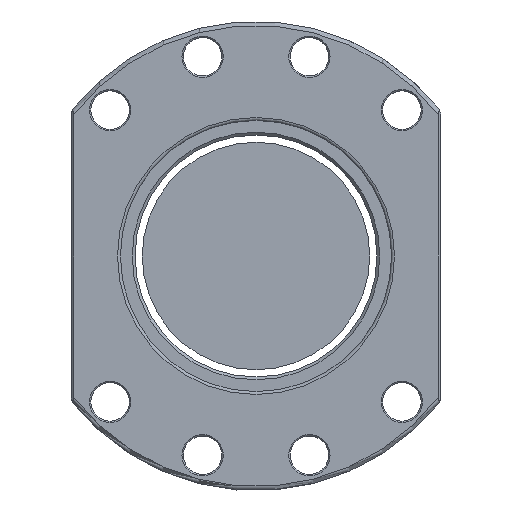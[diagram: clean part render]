
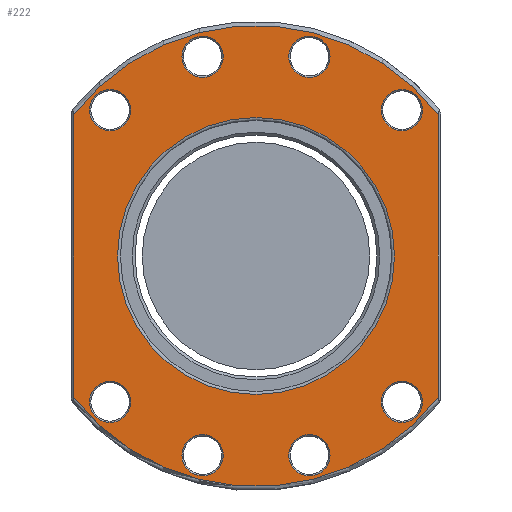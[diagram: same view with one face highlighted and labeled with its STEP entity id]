
A CAD part, front view. The second image highlights one B-rep face of the part: STEP entity #222.
In plain terms, the highlighted planar face has unit normal (0, -1, 0).
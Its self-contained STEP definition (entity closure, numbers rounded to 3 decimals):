
#39=LINE('',#1646,#63);
#40=LINE('',#1650,#64);
#63=VECTOR('',#1347,1.);
#64=VECTOR('',#1350,1.);
#167=PLANE('',#1141);
#222=ADVANCED_FACE('',(#337,#338,#339,#340,#341,#342,#343,#344,#345,#346),
#167,.T.);
#337=FACE_BOUND('',#469,.T.);
#338=FACE_BOUND('',#470,.T.);
#339=FACE_BOUND('',#471,.T.);
#340=FACE_BOUND('',#472,.T.);
#341=FACE_BOUND('',#473,.T.);
#342=FACE_BOUND('',#474,.T.);
#343=FACE_BOUND('',#475,.T.);
#344=FACE_BOUND('',#476,.T.);
#345=FACE_BOUND('',#477,.T.);
#346=FACE_BOUND('',#478,.T.);
#469=EDGE_LOOP('',(#617));
#470=EDGE_LOOP('',(#618));
#471=EDGE_LOOP('',(#619));
#472=EDGE_LOOP('',(#620));
#473=EDGE_LOOP('',(#621));
#474=EDGE_LOOP('',(#622));
#475=EDGE_LOOP('',(#623));
#476=EDGE_LOOP('',(#624));
#477=EDGE_LOOP('',(#625));
#478=EDGE_LOOP('',(#626,#627,#628,#629));
#617=ORIENTED_EDGE('',*,*,#920,.T.);
#618=ORIENTED_EDGE('',*,*,#921,.T.);
#619=ORIENTED_EDGE('',*,*,#922,.T.);
#620=ORIENTED_EDGE('',*,*,#923,.T.);
#621=ORIENTED_EDGE('',*,*,#924,.T.);
#622=ORIENTED_EDGE('',*,*,#925,.T.);
#623=ORIENTED_EDGE('',*,*,#926,.T.);
#624=ORIENTED_EDGE('',*,*,#927,.T.);
#625=ORIENTED_EDGE('',*,*,#928,.T.);
#626=ORIENTED_EDGE('',*,*,#929,.T.);
#627=ORIENTED_EDGE('',*,*,#930,.T.);
#628=ORIENTED_EDGE('',*,*,#931,.T.);
#629=ORIENTED_EDGE('',*,*,#932,.T.);
#823=VERTEX_POINT('',#1626);
#824=VERTEX_POINT('',#1628);
#825=VERTEX_POINT('',#1630);
#826=VERTEX_POINT('',#1632);
#827=VERTEX_POINT('',#1634);
#828=VERTEX_POINT('',#1636);
#829=VERTEX_POINT('',#1638);
#830=VERTEX_POINT('',#1640);
#831=VERTEX_POINT('',#1642);
#832=VERTEX_POINT('',#1644);
#833=VERTEX_POINT('',#1645);
#834=VERTEX_POINT('',#1647);
#835=VERTEX_POINT('',#1649);
#920=EDGE_CURVE('',#823,#823,#1033,.T.);
#921=EDGE_CURVE('',#824,#824,#1034,.T.);
#922=EDGE_CURVE('',#825,#825,#1035,.T.);
#923=EDGE_CURVE('',#826,#826,#1036,.T.);
#924=EDGE_CURVE('',#827,#827,#1037,.T.);
#925=EDGE_CURVE('',#828,#828,#1038,.T.);
#926=EDGE_CURVE('',#829,#829,#1039,.T.);
#927=EDGE_CURVE('',#830,#830,#1040,.T.);
#928=EDGE_CURVE('',#831,#831,#1041,.T.);
#929=EDGE_CURVE('',#832,#833,#1042,.T.);
#930=EDGE_CURVE('',#833,#834,#39,.T.);
#931=EDGE_CURVE('',#834,#835,#1043,.T.);
#932=EDGE_CURVE('',#835,#832,#40,.T.);
#1033=CIRCLE('',#1130,48.65);
#1034=CIRCLE('',#1131,7.25);
#1035=CIRCLE('',#1132,7.25);
#1036=CIRCLE('',#1133,7.25);
#1037=CIRCLE('',#1134,7.25);
#1038=CIRCLE('',#1135,7.25);
#1039=CIRCLE('',#1136,7.25);
#1040=CIRCLE('',#1137,7.25);
#1041=CIRCLE('',#1138,7.25);
#1042=CIRCLE('',#1139,81.);
#1043=CIRCLE('',#1140,81.);
#1130=AXIS2_PLACEMENT_3D('',#1625,#1327,#1328);
#1131=AXIS2_PLACEMENT_3D('',#1627,#1329,#1330);
#1132=AXIS2_PLACEMENT_3D('',#1629,#1331,#1332);
#1133=AXIS2_PLACEMENT_3D('',#1631,#1333,#1334);
#1134=AXIS2_PLACEMENT_3D('',#1633,#1335,#1336);
#1135=AXIS2_PLACEMENT_3D('',#1635,#1337,#1338);
#1136=AXIS2_PLACEMENT_3D('',#1637,#1339,#1340);
#1137=AXIS2_PLACEMENT_3D('',#1639,#1341,#1342);
#1138=AXIS2_PLACEMENT_3D('',#1641,#1343,#1344);
#1139=AXIS2_PLACEMENT_3D('',#1643,#1345,#1346);
#1140=AXIS2_PLACEMENT_3D('',#1648,#1348,#1349);
#1141=AXIS2_PLACEMENT_3D('',#1651,#1351,#1352);
#1327=DIRECTION('',(0.,1.,0.));
#1328=DIRECTION('',(0.,0.,-1.));
#1329=DIRECTION('',(0.,1.,0.));
#1330=DIRECTION('',(0.,0.,-1.));
#1331=DIRECTION('',(0.,1.,0.));
#1332=DIRECTION('',(0.,0.,-1.));
#1333=DIRECTION('',(0.,1.,0.));
#1334=DIRECTION('',(0.,0.,-1.));
#1335=DIRECTION('',(0.,1.,0.));
#1336=DIRECTION('',(0.,0.,-1.));
#1337=DIRECTION('',(0.,1.,0.));
#1338=DIRECTION('',(0.,0.,-1.));
#1339=DIRECTION('',(0.,1.,0.));
#1340=DIRECTION('',(0.,0.,-1.));
#1341=DIRECTION('',(0.,1.,0.));
#1342=DIRECTION('',(0.,0.,-1.));
#1343=DIRECTION('',(0.,1.,0.));
#1344=DIRECTION('',(0.,0.,-1.));
#1345=DIRECTION('',(0.,-1.,0.));
#1346=DIRECTION('',(0.,0.,-1.));
#1347=DIRECTION('',(0.,0.,-1.));
#1348=DIRECTION('',(0.,-1.,0.));
#1349=DIRECTION('',(0.,0.,-1.));
#1350=DIRECTION('',(0.,0.,1.));
#1351=DIRECTION('',(0.,-1.,0.));
#1352=DIRECTION('',(0.,0.,-1.));
#1625=CARTESIAN_POINT('',(0.,0.,0.));
#1626=CARTESIAN_POINT('',(0.,0.,-48.65));
#1627=CARTESIAN_POINT('',(18.764,0.,70.03));
#1628=CARTESIAN_POINT('',(18.764,0.,62.78));
#1629=CARTESIAN_POINT('',(18.764,0.,-70.03));
#1630=CARTESIAN_POINT('',(18.764,0.,-77.28));
#1631=CARTESIAN_POINT('',(-18.764,0.,-70.03));
#1632=CARTESIAN_POINT('',(-18.764,0.,-77.28));
#1633=CARTESIAN_POINT('',(-51.265,0.,51.265));
#1634=CARTESIAN_POINT('',(-51.265,0.,44.015));
#1635=CARTESIAN_POINT('',(-18.764,0.,70.03));
#1636=CARTESIAN_POINT('',(-18.764,0.,62.78));
#1637=CARTESIAN_POINT('',(51.265,0.,-51.265));
#1638=CARTESIAN_POINT('',(51.265,0.,-58.515));
#1639=CARTESIAN_POINT('',(51.265,0.,51.265));
#1640=CARTESIAN_POINT('',(51.265,0.,44.015));
#1641=CARTESIAN_POINT('',(-51.265,0.,-51.265));
#1642=CARTESIAN_POINT('',(-51.265,0.,-58.515));
#1643=CARTESIAN_POINT('',(0.,0.,0.));
#1644=CARTESIAN_POINT('',(64.,0.,49.649));
#1645=CARTESIAN_POINT('',(-64.,0.,49.649));
#1646=CARTESIAN_POINT('',(-64.,0.,-48.332));
#1647=CARTESIAN_POINT('',(-64.,0.,-49.649));
#1648=CARTESIAN_POINT('',(0.,0.,0.));
#1649=CARTESIAN_POINT('',(64.,0.,-49.649));
#1650=CARTESIAN_POINT('',(64.,0.,48.332));
#1651=CARTESIAN_POINT('',(0.,0.,0.));
